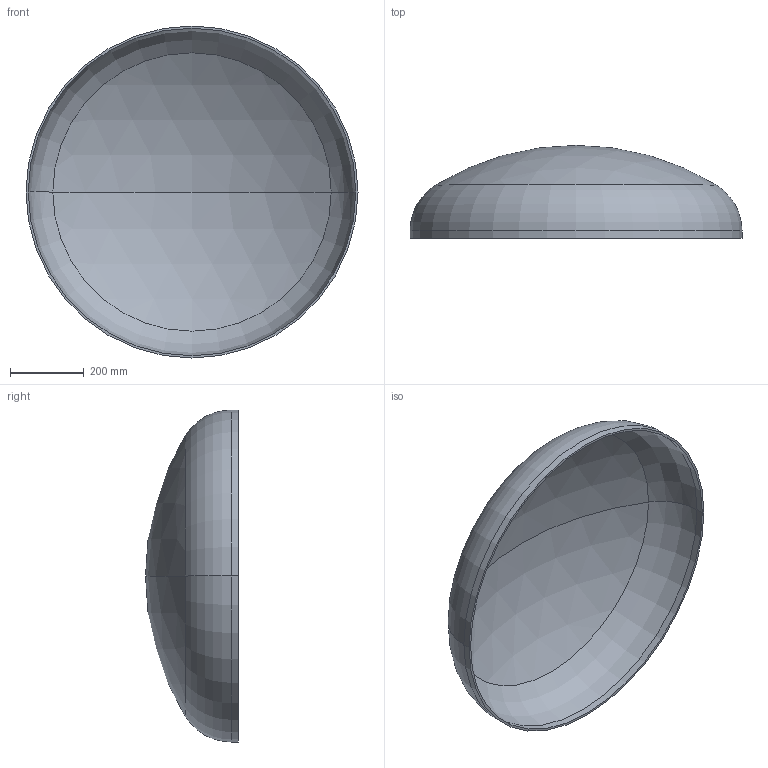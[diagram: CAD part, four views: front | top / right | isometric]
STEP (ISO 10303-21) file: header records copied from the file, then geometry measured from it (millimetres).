
FILE_DESCRIPTION (( 'STEP AP203' ), '1' );
FILE_NAME ('DIN 28013 Korbbogenform_-_Boden DIN 28013 - 900 x 20 - I - s=6.step', '2016-07-01T08:24:52', ( '' ), ( '' ), 'SwSTEP 2.0', 'SolidWorks 2013', '' );
FILE_SCHEMA (( 'CONFIG_CONTROL_DESIGN' ));
Length unit declared in the file: millimetre
Products named in the file (1): DIN 28013 Korbbogenform_-_Boden DIN 28013 - 900 x 20 - I - s=6
Bounding box: 900 x 252.05 x 900 mm (x, y, z)
Volume: 5587594.7 mm3; surface area: 1879457.7 mm2
Topology: 1 solids, 1 shells, 13 faces, 24 edges, 14 vertices
Faces by surface type: torus 4, cylinder 4, sphere 4, plane 1
Entity records: 407 total; most frequent: DIRECTION 72, CARTESIAN_POINT 52, ORIENTED_EDGE 48, AXIS2_PLACEMENT_3D 34, EDGE_CURVE 24, CIRCLE 20, EDGE_LOOP 14, VERTEX_POINT 14
